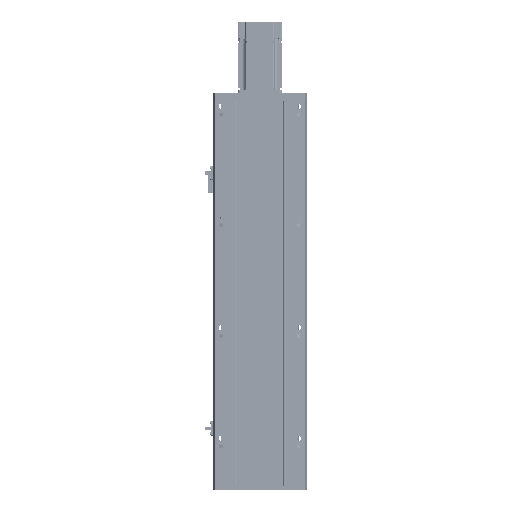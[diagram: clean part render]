
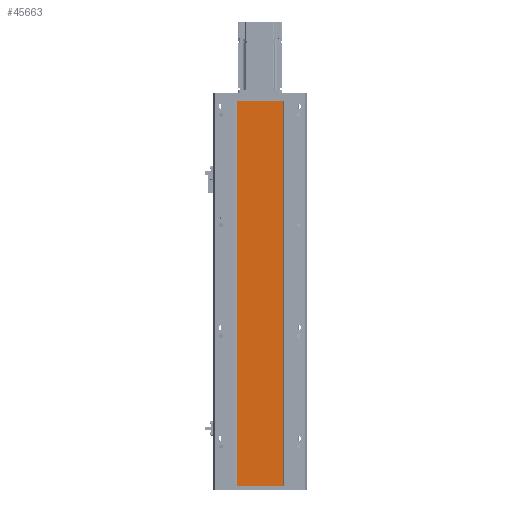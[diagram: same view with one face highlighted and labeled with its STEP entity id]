
A CAD part, front view. The second image highlights one B-rep face of the part: STEP entity #45663.
In plain terms, the highlighted planar face has unit normal (0, -1, 0).
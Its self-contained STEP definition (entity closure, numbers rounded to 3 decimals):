
#759 = DIRECTION ( 'NONE',  ( 1., 0., 0. ) ) ;
#1134 = VECTOR ( 'NONE', #86333, 1000. ) ;
#3140 = CARTESIAN_POINT ( 'NONE',  ( 42., 0., 0. ) ) ;
#4410 = EDGE_CURVE ( 'NONE', #31613, #11577, #35286, .T. ) ;
#4742 = ORIENTED_EDGE ( 'NONE', *, *, #78614, .T. ) ;
#5592 = LINE ( 'NONE', #31922, #87114 ) ;
#11577 = VERTEX_POINT ( 'NONE', #3140 ) ;
#13217 = CARTESIAN_POINT ( 'NONE',  ( -42., 0., -695. ) ) ;
#20845 = DIRECTION ( 'NONE',  ( 0., -1., 0. ) ) ;
#21189 = PLANE ( 'NONE',  #71404 ) ;
#21230 = VECTOR ( 'NONE', #48555, 1000. ) ;
#29086 = DIRECTION ( 'NONE',  ( 0., 0., -1. ) ) ;
#31613 = VERTEX_POINT ( 'NONE', #79185 ) ;
#31922 = CARTESIAN_POINT ( 'NONE',  ( 42., 0., -695. ) ) ;
#32632 = CARTESIAN_POINT ( 'NONE',  ( -42., 0., -695. ) ) ;
#35286 = LINE ( 'NONE', #64326, #98318 ) ;
#37522 = CARTESIAN_POINT ( 'NONE',  ( -42., 0., -695. ) ) ;
#37634 = CARTESIAN_POINT ( 'NONE',  ( 42., 0., -695. ) ) ;
#40138 = ORIENTED_EDGE ( 'NONE', *, *, #4410, .F. ) ;
#42038 = FACE_OUTER_BOUND ( 'NONE', #67858, .T. ) ;
#42265 = LINE ( 'NONE', #32632, #21230 ) ;
#42614 = EDGE_CURVE ( 'NONE', #102195, #78073, #64189, .T. ) ;
#45663 = ADVANCED_FACE ( 'NONE', ( #42038 ), #21189, .T. ) ;
#48208 = DIRECTION ( 'NONE',  ( 0., 0., 1. ) ) ;
#48555 = DIRECTION ( 'NONE',  ( 0., 0., 1. ) ) ;
#60545 = ORIENTED_EDGE ( 'NONE', *, *, #75499, .F. ) ;
#64189 = LINE ( 'NONE', #78459, #1134 ) ;
#64326 = CARTESIAN_POINT ( 'NONE',  ( -42., 0., 0. ) ) ;
#67858 = EDGE_LOOP ( 'NONE', ( #40138, #60545, #83500, #4742 ) ) ;
#71404 = AXIS2_PLACEMENT_3D ( 'NONE', #13217, #20845, #29086 ) ;
#75499 = EDGE_CURVE ( 'NONE', #102195, #31613, #42265, .T. ) ;
#78073 = VERTEX_POINT ( 'NONE', #37634 ) ;
#78459 = CARTESIAN_POINT ( 'NONE',  ( -42., 0., -695. ) ) ;
#78614 = EDGE_CURVE ( 'NONE', #78073, #11577, #5592, .T. ) ;
#79185 = CARTESIAN_POINT ( 'NONE',  ( -42., 0., 0. ) ) ;
#83500 = ORIENTED_EDGE ( 'NONE', *, *, #42614, .T. ) ;
#86333 = DIRECTION ( 'NONE',  ( 1., 0., 0. ) ) ;
#87114 = VECTOR ( 'NONE', #48208, 1000. ) ;
#98318 = VECTOR ( 'NONE', #759, 1000. ) ;
#102195 = VERTEX_POINT ( 'NONE', #37522 ) ;
